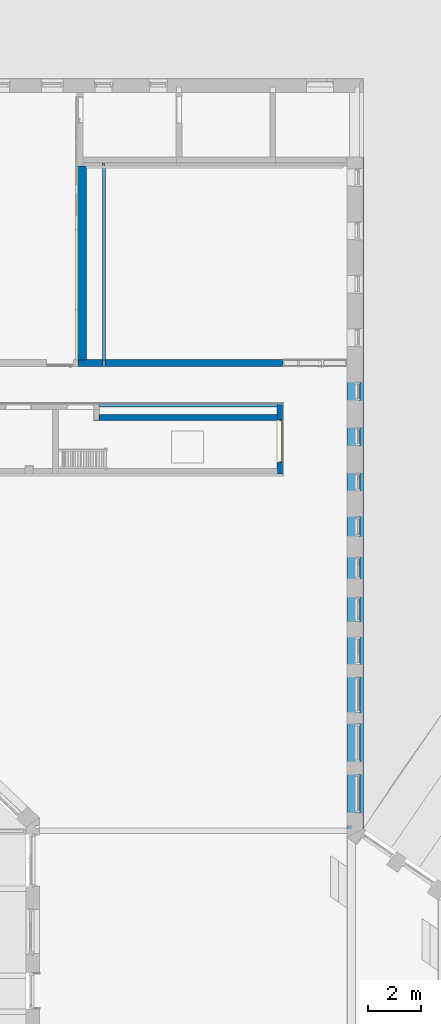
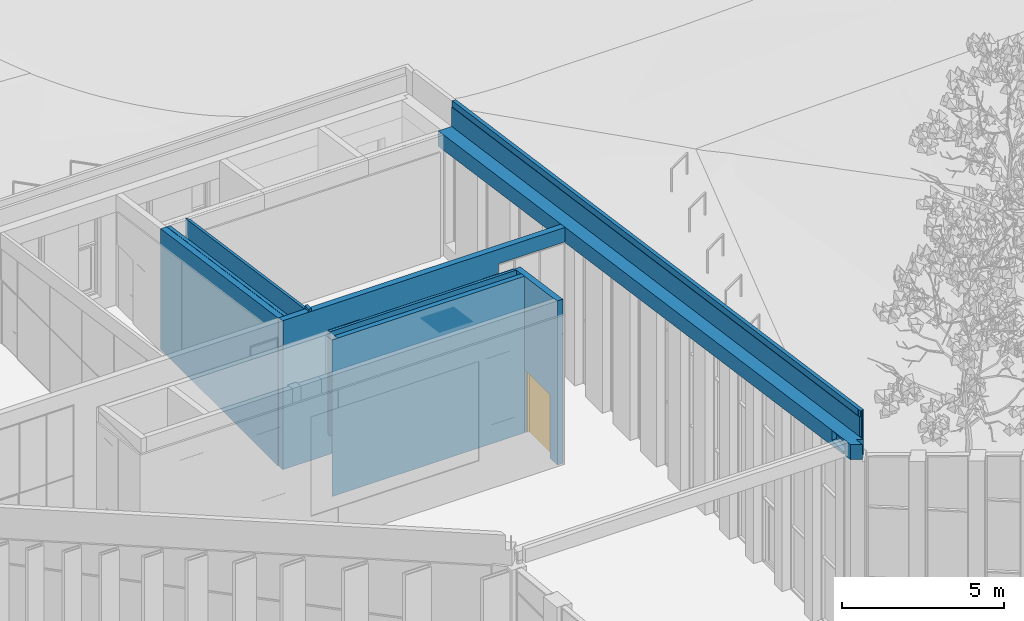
# One storey, part 127 of 246: 7 walls, 1 door, 3 openings.
"""IFC2X3 building model written with IfcOpenShell, lengths in millimetres."""

from ifc_helpers import new_model, entity, si_unit, converted_unit, derived_unit, money_unit, direction, frame, origin_with_axes, place, context, subcontext, project, spatial, faceted_brep, material, material_list, type_object, element, fill, save


model = new_model("IFC2X3")

# Units and contexts
model_context = context("Model", 3, precision=0.01, world=origin_with_axes(), true_north=direction((0.0, 1.0)))
body_context = subcontext(model_context, "Body", "Model", "MODEL_VIEW")
ifc_project = project(units=[si_unit("LENGTHUNIT", "METRE", prefix="MILLI"), si_unit("AREAUNIT", "SQUARE_METRE"), si_unit("VOLUMEUNIT", "CUBIC_METRE"), converted_unit("PLANEANGLEUNIT", "DEGREE", entity("IfcPlaneAngleMeasure", 0.0174532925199), si_unit("PLANEANGLEUNIT", "RADIAN"), dimensions=[0, 0, 0, 0, 0, 0, 0]), si_unit("SOLIDANGLEUNIT", "STERADIAN"), money_unit("EUR"), converted_unit("TIMEUNIT", "Year", entity("IfcTimeMeasure", 31556926.0), si_unit("TIMEUNIT", "SECOND"), dimensions=[0, 0, 1, 0, 0, 0, 0]), si_unit("MASSUNIT", "GRAM", prefix="KILO"), si_unit("THERMODYNAMICTEMPERATUREUNIT", "DEGREE_CELSIUS"), si_unit("LUMINOUSINTENSITYUNIT", "LUMEN"), si_unit("ENERGYUNIT", "JOULE", prefix="MEGA"), derived_unit("THERMALCONDUCTANCEUNIT", [(si_unit("POWERUNIT", "WATT"), 1), (si_unit("LENGTHUNIT", "METRE"), -1), (si_unit("THERMODYNAMICTEMPERATUREUNIT", "KELVIN"), -1)]), derived_unit("SPECIFICHEATCAPACITYUNIT", [(si_unit("ENERGYUNIT", "JOULE"), 1), (si_unit("MASSUNIT", "GRAM", prefix="KILO"), -1), (si_unit("THERMODYNAMICTEMPERATUREUNIT", "KELVIN"), -1)]), derived_unit("MASSDENSITYUNIT", [(si_unit("MASSUNIT", "GRAM", prefix="KILO"), 1), (si_unit("VOLUMEUNIT", "CUBIC_METRE"), -1)])], contexts=[model_context])

# Site, building, storey
site_placement = place(None, origin_with_axes())
site = spatial("IfcSite", under=ifc_project, at=site_placement, Name="L.Koidula tn 11b", CompositionType="ELEMENT")
building_placement = place(site_placement, origin_with_axes())
building = spatial("IfcBuilding", under=site, at=building_placement, Name="Rakvere Riigigümnaasium", CompositionType="ELEMENT")
storey_placement = place(building_placement, origin_with_axes())
storey = spatial("IfcBuildingStorey", under=building, at=storey_placement, Name="1.korrus 0,00", CompositionType="ELEMENT", Elevation=0.0)

# Wall
ifc_material_1 = material(Name="Kipsplaat")
ifc_material_2 = material(Name="mineraalvill+karkass")
ifc_material_3 = material(Name="Betoon element / plaat")
ifc_material_4 = material(Name="Krohv")
ifc_material_list_1 = material_list([ifc_material_1, ifc_material_2, ifc_material_3, ifc_material_4])
wall_type_1 = type_object("IfcWallType", Name="SS-02-1 345", PredefinedType="NOTDEFINED")
wall_1_placement = place(storey_placement, frame((36919.9971542, 68844.1313013, 0.0), z_axis=(0.0, 0.0, 1.0), x_axis=(0.0, -1.0, 0.0)))
element("IfcWall", 1, at=wall_1_placement, inside=storey, type_object=wall_type_1, material=ifc_material_list_1, Name="Sisesein", context=body_context, shape_type="Brep", body=[
    faceted_brep([(0.0, 310.0, 4548.96898762), (0.0, 335.0, 4548.96898748), (0.0, 335.0, 0.0), (0.0, 310.0, 0.0), (7253.59550954, 335.0, 5581.30850311), (7253.59550954, 310.0, 5581.30850325), (7253.59550954, 335.0, 0.0), (7253.59550954, 310.0, 0.0)], [[[0, 1, 2, 3]], [[4, 1, 0, 5]], [[1, 4, 6, 2]], [[2, 6, 7, 3]], [[5, 0, 3, 7]], [[4, 5, 7, 6]]]),
    faceted_brep([(0.0, 210.0, 4548.96898818), (0.0, 310.0, 4548.96898762), (0.0, 310.0, 0.0), (0.0, 210.0, 0.0), (7253.59550954, 310.0, 5581.30850325), (7253.59550954, 210.0, 5581.30850381), (7253.59550954, 310.0, 0.0), (7253.59550954, 210.0, 0.0)], [[[0, 1, 2, 3]], [[4, 1, 0, 5]], [[1, 4, 6, 2]], [[2, 6, 7, 3]], [[5, 0, 3, 7]], [[4, 5, 7, 6]]]),
    faceted_brep([(0.0, 0.0, 4548.96898937), (0.0, 200.0, 4548.96898824), (0.0, 200.0, 0.0), (0.0, 0.0, 0.0), (7253.59550954, 200.0, 5581.30850387), (7253.59550954, 0.0, 5581.308505), (7253.59550954, 200.0, 0.0), (7253.59550954, 0.0, 0.0)], [[[0, 1, 2, 3]], [[4, 1, 0, 5]], [[1, 4, 6, 2]], [[2, 6, 7, 3]], [[5, 0, 3, 7]], [[4, 5, 7, 6]]]),
    faceted_brep([(0.0, -10.0000087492, 4548.96898943), (0.0, 0.0, 4548.96898937), (0.0, 0.0, 0.0), (0.0, -10.0, 0.0), (7253.59550954, 0.0, 5581.308505), (7253.59550954, -10.0000087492, 5581.30850506), (7253.59550954, 0.0, 0.0), (7253.59550954, -10.0, 0.0)], [[[0, 1, 2, 3]], [[4, 1, 0, 5]], [[1, 4, 6, 2]], [[3, 2, 6, 7]], [[5, 0, 3, 7]], [[4, 5, 7, 6]]]),
])

# Wall, opening, door
ifc_material_5 = material(Name="siseviimistlus-seinad")
ifc_material_list_2 = material_list([ifc_material_3, ifc_material_5])
wall_type_2 = type_object("IfcWallType", Name="SS-01-1 210", PredefinedType="NOTDEFINED")
wall_2_placement = place(storey_placement, frame((44599.9999911, 59940.5286845, 0.0), z_axis=(0.0, 0.0, 1.0), x_axis=(0.0, -1.0, 0.0)))
wall_2 = element("IfcWall", 2, at=wall_2_placement, inside=storey, type_object=wall_type_2, material=ifc_material_list_2, Name="Sisesein", context=body_context, shape_type="Brep", body=[
    faceted_brep([(0.0, -200.0, 5816.13924923), (0.0, 0.0, 5816.1392481), (0.0, 0.0, 0.0), (0.0, -200.0, 0.0), (2620.07403484, 0.0, 6189.03100316), (2620.07403484, -200.0, 6189.03100429), (2620.07403484, 0.0, 0.0), (2200.07400769, 0.0, 0.0), (2200.07400769, 0.0, 2400.0), (600.074007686, 0.0, 2400.0), (600.074007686, 0.0, 0.0), (600.074007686, -200.0, 0.0), (600.074007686, -200.0, 2400.0), (2200.07400769, -200.0, 2400.0), (2200.07400769, -200.0, 0.0), (2620.07403484, -200.0, 0.0)], [[[0, 1, 2, 3]], [[4, 1, 0, 5]], [[1, 4, 6, 7, 8, 9, 10, 2]], [[2, 10, 11, 3]], [[5, 0, 3, 11, 12, 13, 14, 15]], [[4, 5, 15, 6]], [[15, 14, 7, 6]], [[13, 8, 7, 14]], [[12, 9, 8, 13]], [[11, 10, 9, 12]]]),
    faceted_brep([(600.074029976, -210.0, 5901.54243073), (600.074029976, -200.0, 5901.54243067), (600.074007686, -200.0, 2400.0), (600.074007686, -210.0, 2400.0), (2420.07403484, -200.0, 6160.56678915), (2420.07403484, -210.0, 6160.5667892), (2420.07403484, -200.0, 0.0), (2200.07400769, -200.0, 0.0), (2200.07400769, -200.0, 2400.0), (2200.07400769, -210.0, 2400.0), (2200.07400769, -210.0, 0.0), (2420.07403484, -210.0, 0.0)], [[[0, 1, 2, 3]], [[4, 1, 0, 5]], [[1, 4, 6, 7, 8, 2]], [[9, 3, 2, 8]], [[5, 0, 3, 9, 10, 11]], [[4, 5, 11, 6]], [[11, 10, 7, 6]], [[9, 8, 7, 10]]]),
    faceted_brep([(0.0, -210.0, 5816.13924928), (0.0, -200.0, 5816.13924923), (0.0, -200.0, 0.0), (0.0, -210.0, 0.0), (15.5740348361, -200.0, 5818.35576262), (15.5740348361, -210.0, 5818.35576267), (15.5740348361, -200.0, 0.0), (15.5740348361, -210.0, 0.0)], [[[0, 1, 2, 3]], [[4, 1, 0, 5]], [[1, 4, 6, 2]], [[6, 7, 3, 2]], [[5, 0, 3, 7]], [[4, 5, 7, 6]]]),
    faceted_brep([(81.5740348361, -210.0, 5827.74895367), (81.5740348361, -200.0, 5827.74895361), (81.5740348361, -200.0, 0.0), (81.5740348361, -210.0, 0.0), (400.074034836, -200.0, 5873.07821623), (400.074034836, -210.0, 5873.07821628), (400.074034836, -200.0, 0.0), (400.074034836, -210.0, 0.0)], [[[0, 1, 2, 3]], [[4, 1, 0, 5]], [[1, 4, 6, 2]], [[6, 7, 3, 2]], [[5, 0, 3, 7]], [[4, 5, 7, 6]]]),
])
opening_1_placement = place(wall_2_placement, frame((1400.07400769, 0.0, 0.0), z_axis=(0.0, 0.0, 1.0), x_axis=(1.0, 0.0, 0.0)))
opening_1 = element("IfcOpeningElement", 3, at=opening_1_placement, cuts=wall_2, Name="SU-006", context=body_context, shape_type="Brep", body=[
    faceted_brep([(-800.0, 420.0, 2400.0), (-800.0, 420.0, 0.0), (-800.0, -210.0, 0.0), (-800.0, -210.0, 2400.0), (800.0, 420.0, 2400.0), (800.0, 420.0, 0.0), (800.0, -210.0, 0.0), (800.0, -210.0, 2400.0)], [[[0, 1, 2, 3]], [[0, 4, 5, 1]], [[1, 5, 6, 2]], [[3, 2, 6, 7]], [[4, 0, 3, 7]], [[5, 4, 7, 6]]]),
])
door_style = type_object("IfcDoorStyle", Name="Double Door 23", ConstructionType="NOTDEFINED", OperationType="DOUBLE_DOOR_SINGLE_SWING", ParameterTakesPrecedence=False, Sizeable=False)
door_placement = place(opening_1_placement, frame((-800.0, 0.0, 0.0), z_axis=(0.0, 0.0, 1.0), x_axis=(1.0, 0.0, 0.0)))
door = element("IfcDoor", 4, at=door_placement, inside=storey, type_object=door_style, Name="SU-006", ObjectType="DOOR", OverallHeight=2400.0, OverallWidth=1600.0, context=body_context, shape_type="Brep", body=[
    faceted_brep([(1560.0, -40.0, 0.0), (1560.0, -115.0, 0.0), (1560.0, -115.0, 2360.0), (1560.0, -40.0, 2360.0), (1572.0, -40.0, 0.0), (1572.0, 0.0, 0.0), (1600.0, 0.0, 0.0), (1600.0, -115.0, 0.0), (1600.0, -115.0, 2360.0), (1572.0, -40.0, 2360.0), (1600.0, 0.0, 2360.0), (1572.0, 0.0, 2360.0)], [[[0, 1, 2, 3]], [[4, 5, 6, 7, 1, 0]], [[1, 7, 8, 2]], [[9, 3, 2, 8, 10, 11]], [[9, 4, 0, 3]], [[11, 5, 4, 9]], [[11, 10, 6, 5]], [[6, 10, 8, 7]]]),
    faceted_brep([(28.0, -40.0, 2360.0), (28.0, 0.0, 2360.0), (0.0, 0.0, 2360.0), (0.0, -115.0, 2360.0), (40.0, -115.0, 2360.0), (40.0, -40.0, 2360.0), (28.0, -40.0, 0.0), (28.0, 0.0, 0.0), (0.0, 0.0, 0.0), (0.0, -115.0, 0.0), (40.0, -115.0, 0.0), (40.0, -40.0, 0.0)], [[[0, 1, 2, 3, 4, 5]], [[0, 6, 7, 1]], [[7, 8, 2, 1]], [[2, 8, 9, 3]], [[3, 9, 10, 4]], [[5, 4, 10, 11]], [[5, 11, 6, 0]], [[6, 11, 10, 9, 8, 7]]]),
    faceted_brep([(1572.0, 0.0, 2372.0), (28.0, 0.0, 2372.0), (28.0, 0.0, 2360.0), (0.0, 0.0, 2360.0), (0.0, 0.0, 2400.0), (1600.0, 0.0, 2400.0), (1600.0, 0.0, 2360.0), (1572.0, 0.0, 2360.0), (1572.0, -40.0, 2372.0), (28.0, -40.0, 2372.0), (28.0, -40.0, 2360.0), (40.0, -40.0, 2360.0), (40.0, -115.0, 2360.0), (0.0, -115.0, 2360.0), (0.0, -115.0, 2400.0), (1600.0, -115.0, 2400.0), (1600.0, -115.0, 2360.0), (1572.0, -40.0, 2360.0), (1560.0, -115.0, 2360.0), (1560.0, -40.0, 2360.0)], [[[0, 1, 2, 3, 4, 5, 6, 7]], [[0, 8, 9, 1]], [[1, 9, 10, 2]], [[10, 11, 12, 13, 3, 2]], [[4, 3, 13, 14]], [[5, 4, 14, 15]], [[6, 5, 15, 16]], [[17, 7, 6, 16, 18, 19]], [[7, 17, 8, 0]], [[10, 9, 8, 17, 19, 11]], [[19, 18, 12, 11]], [[12, 18, 16, 15, 14, 13]]]),
    faceted_brep([(28.0, 0.0, 0.0), (800.0, 0.0, 0.0), (800.0, -40.0, 0.0), (28.0, -40.0, 0.0), (28.0, 0.0, 2372.0), (800.0, 0.0, 2372.0), (800.0, -40.0, 2372.0), (28.0, -40.0, 2372.0)], [[[0, 1, 2, 3]], [[0, 4, 5, 1]], [[1, 5, 6, 2]], [[3, 2, 6, 7]], [[4, 0, 3, 7]], [[5, 4, 7, 6]]]),
    faceted_brep([(1572.0, 0.0, 0.0), (1572.0, -40.0, 0.0), (800.0, -40.0, 0.0), (800.0, 0.0, 0.0), (1572.0, 0.0, 2372.0), (1572.0, -40.0, 2372.0), (800.0, -40.0, 2372.0), (800.0, 0.0, 2372.0)], [[[0, 1, 2, 3]], [[4, 5, 1, 0]], [[1, 5, 6, 2]], [[3, 2, 6, 7]], [[0, 3, 7, 4]], [[7, 6, 5, 4]]]),
])
fill(opening_1, door)

# Wall
wall_3_placement = place(storey_placement, frame((37529.9999911, 59540.4546496, 0.0), z_axis=(0.0, 0.0, 1.0), x_axis=(1.0, 0.0, 0.0)))
element("IfcWall", 5, at=wall_3_placement, inside=storey, type_object=wall_type_2, material=ifc_material_list_2, Name="Sisesein", context=body_context, shape_type="Brep", body=[
    faceted_brep([(200.0, 0.0, 5873.07825391), (6870.0, 0.0, 5873.07821623), (6870.0, 0.0, 0.0), (200.0, 0.0, 0.0), (6870.0, -200.0, 5901.54243137), (200.0, -200.0, 5901.54246905), (6870.0, -200.0, 0.0), (200.0, -200.0, 0.0)], [[[0, 1, 2, 3]], [[4, 1, 0, 5]], [[1, 4, 6, 2]], [[3, 2, 6, 7]], [[5, 0, 3, 7]], [[4, 5, 7, 6]]]),
    faceted_brep([(0.0, -200.0, 5901.54247018), (6860.0, -200.0, 5901.54243142), (6860.0, -200.0, 0.0), (0.0, -200.0, 0.0), (6860.0, -210.0, 5902.96564218), (0.0, -210.0, 5902.96568094), (6860.0, -210.0, 0.0), (0.0, -210.0, 0.0)], [[[0, 1, 2, 3]], [[4, 1, 0, 5]], [[1, 4, 6, 2]], [[3, 2, 6, 7]], [[5, 0, 3, 7]], [[4, 5, 7, 6]]]),
])

# Wall, opening
ifc_material_list_3 = material_list([ifc_material_1, ifc_material_1, ifc_material_2, ifc_material_1, ifc_material_1])
wall_type_3 = type_object("IfcWallType", Name="SS-08 118", PredefinedType="NOTDEFINED")
wall_4_placement = place(storey_placement, frame((37739.9999911, 59924.9546496, 0.0), z_axis=(0.0, 0.0, 1.0), x_axis=(1.0, 0.0, 0.0)))
wall_4 = element("IfcWall", 6, at=wall_4_placement, inside=storey, type_object=wall_type_3, material=ifc_material_list_3, Name="Sisesein", context=body_context, shape_type="Brep", body=[
    faceted_brep([(5520.31178235, 25.5, 5814.72658163), (5520.31178235, 25.5, 5829.25372124), (6650.0, 25.5, 5829.25372124), (6650.0, 25.5, 1900.0), (0.0, 25.5, 1900.0), (0.0, 25.5, 5829.25372124), (1130.43030722, 25.5, 5829.25372124), (1130.43030722, 25.5, 5814.72660643), (5520.31178235, 23.4735286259, 5815.01499121), (6650.0, 23.4735277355, 5815.01498496), (6650.0, 12.5, 5816.57674923), (6650.0, 12.5, 1900.0), (0.0, 12.5, 1900.0), (0.0, 23.4735329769, 5815.01502178), (0.0, 12.5, 5816.5767868), (1130.43030722, 23.4735320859, 5815.01501552)], [[[0, 1, 2, 3, 4, 5, 6, 7]], [[1, 0, 8]], [[9, 2, 1, 8]], [[9, 10, 11, 3, 2]], [[12, 4, 3, 11]], [[13, 5, 4, 12, 14]], [[6, 5, 13, 15]], [[7, 6, 15]], [[10, 9, 8, 0, 7, 15, 13, 14]], [[10, 14, 12, 11]]]),
    faceted_brep([(0.0, 12.5, 5816.5767868), (6650.0, 12.5, 5816.57674923), (6650.0, 12.5, 1900.0), (0.0, 12.5, 1900.0), (6650.0, 0.0, 5818.35576267), (0.0, 0.0, 5818.35580025), (6650.0, 0.0, 1900.0), (0.0, 0.0, 1900.0)], [[[0, 1, 2, 3]], [[4, 1, 0, 5]], [[1, 4, 6, 2]], [[7, 3, 2, 6]], [[5, 0, 3, 7]], [[4, 5, 7, 6]]]),
    faceted_brep([(0.0, 0.0, 5818.35580025), (6660.0, 0.0, 5818.35576262), (6660.0, 0.0, 1900.0), (0.0, 0.0, 1900.0), (6660.0, -66.0, 5827.74895361), (0.0, -66.0, 5827.74899124), (6660.0, -66.0, 1900.0), (0.0, -66.0, 1900.0)], [[[0, 1, 2, 3]], [[4, 1, 0, 5]], [[1, 4, 6, 2]], [[7, 3, 2, 6]], [[5, 0, 3, 7]], [[4, 5, 7, 6]]]),
    faceted_brep([(0.0, -66.0, 5827.74899124), (6650.0, -66.0, 5827.74895367), (6650.0, -66.0, 1900.0), (0.0, -66.0, 1900.0), (6650.0, -79.0, 5829.59912765), (0.0, -79.0, 5829.59916523), (6650.0, -79.0, 1900.0), (0.0, -79.0, 1900.0)], [[[0, 1, 2, 3]], [[4, 1, 0, 5]], [[1, 4, 6, 2]], [[7, 3, 2, 6]], [[5, 0, 3, 7]], [[4, 5, 7, 6]]]),
    faceted_brep([(0.0, -79.0, 5829.59916523), (6650.0, -79.0, 5829.59912765), (6650.0, -79.0, 1900.0), (0.0, -79.0, 1900.0), (6650.0, -92.0, 5831.44930164), (0.0, -92.0, 5831.44933921), (6650.0, -92.0, 1900.0), (0.0, -92.0, 1900.0)], [[[0, 1, 2, 3]], [[4, 1, 0, 5]], [[1, 4, 6, 2]], [[7, 3, 2, 6]], [[5, 0, 3, 7]], [[4, 5, 7, 6]]]),
])
opening_2_placement = place(wall_4_placement, frame((3330.24881464, 0.0, 0.0), z_axis=(0.0, 0.0, 1.0), x_axis=(1.0, 0.0, 0.0)))
element("IfcOpeningElement", 7, at=opening_2_placement, cuts=wall_4, Name="ava", context=body_context, shape_type="Brep", body=[
    faceted_brep([(-3330.24881464, -117.5, 0.0), (-3330.24881464, -117.5, 1900.0), (-3330.24881464, 235.0, 1900.0), (-3330.24881464, 235.0, 0.0), (3330.24881464, -117.5, 0.0), (3330.24881464, -117.5, 1900.0), (3330.24881464, 235.0, 1900.0), (3330.24881464, 235.0, 0.0)], [[[0, 1, 2, 3]], [[0, 4, 5, 1]], [[1, 5, 6, 2]], [[3, 2, 6, 7]], [[4, 0, 3, 7]], [[5, 4, 7, 6]]]),
])

# Wall
ifc_material_6 = material(Name="Karkass")
ifc_material_7 = material(Name="Kipsplaat-erikõva")
ifc_material_8 = material(Name="Polükarbamiid")
ifc_material_list_4 = material_list([ifc_material_6, ifc_material_7, ifc_material_7, ifc_material_8])
wall_type_4 = type_object("IfcWallType", Name="SS-09-1 97", PredefinedType="NOTDEFINED")
wall_5_placement = place(storey_placement, frame((37959.9999911, 61340.4546496, 2400.0), z_axis=(0.0, 0.0, 1.0), x_axis=(0.0, 1.0, 0.0)))
element("IfcWall", 8, at=wall_5_placement, inside=storey, type_object=wall_type_4, material=ifc_material_list_4, Name="Sisesein", context=body_context, shape_type="Brep", body=[
    faceted_brep([(249.987891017, 30.5000005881, 3216.90033883), (249.987891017, 30.5000005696, 3325.0), (0.0, 30.5000005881, 3325.0), (0.0, 30.500000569, 3216.90033883), (249.987891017, 96.4999993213, 3325.0), (249.987891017, 96.4999992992, 3216.90033883), (0.0, 96.4999992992, 3325.0), (0.0, 96.4999992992, 3216.90033883)], [[[0, 1, 2, 3]], [[4, 1, 0, 5]], [[1, 4, 6, 2]], [[6, 7, 3, 2]], [[5, 0, 3, 7]], [[4, 5, 7, 6]]]),
    faceted_brep([(7629.97665169, 96.4999999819, 2130.99383218), (7629.97665169, 30.5000000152, 2130.9938318), (7629.97665169, 30.5, 0.0), (7629.97665169, 96.5, 0.0), (250.0, 30.5000005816, 3181.32004754), (250.0, 96.499999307, 3181.32004791), (250.0, 30.5, 0.0), (250.0, 96.5, 0.0)], [[[0, 1, 2, 3]], [[4, 1, 0, 5]], [[1, 4, 6, 2]], [[2, 6, 7, 3]], [[5, 0, 3, 7]], [[4, 5, 7, 6]]]),
    faceted_brep([(249.987891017, 18.0, 3216.90033883), (249.987891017, 18.0, 3325.0), (0.0, 18.0, 3325.0), (0.0, 18.0, 3216.90033883), (249.987891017, 30.5000005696, 3325.0), (249.987891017, 30.5000005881, 3216.90033883), (0.0, 30.5000005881, 3325.0), (0.0, 30.500000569, 3216.90033883)], [[[0, 1, 2, 3]], [[4, 1, 0, 5]], [[1, 4, 6, 2]], [[6, 7, 3, 2]], [[5, 0, 3, 7]], [[4, 5, 7, 6]]]),
    faceted_brep([(7529.97665169, 30.50000002, 2145.22593938), (7529.97665169, 18.0, 2145.2259393), (7529.97665169, 18.0, 0.0), (7529.97665169, 30.5, 0.0), (250.0, 18.0, 3181.32004746), (250.0, 30.5000005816, 3181.32004754), (250.0, 18.0, 0.0), (250.0, 30.5, 0.0)], [[[0, 1, 2, 3]], [[4, 1, 0, 5]], [[1, 4, 6, 2]], [[2, 6, 7, 3]], [[5, 0, 3, 7]], [[4, 5, 7, 6]]]),
    faceted_brep([(249.987891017, 5.00000075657, 3216.90033883), (249.987891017, 5.00000073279, 3325.0), (0.0, 5.00000075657, 3325.0), (0.0, 5.00000073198, 3216.90033883), (249.987891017, 18.0, 3325.0), (249.987891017, 18.0, 3216.90033883), (0.0, 18.0, 3325.0), (0.0, 18.0, 3216.90033883)], [[[0, 1, 2, 3]], [[4, 1, 0, 5]], [[1, 4, 6, 2]], [[6, 7, 3, 2]], [[5, 0, 3, 7]], [[4, 5, 7, 6]]]),
    faceted_brep([(7504.97665169, 18.0, 2148.7839662), (7504.97665169, 5.00000002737, 2148.78396612), (7504.97665169, 5.0, 0.0), (7504.97665169, 18.0, 0.0), (250.0, 5.0000007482, 3181.32004739), (250.0, 18.0, 3181.32004746), (250.0, 5.0, 0.0), (250.0, 18.0, 0.0)], [[[0, 1, 2, 3]], [[4, 1, 0, 5]], [[1, 4, 6, 2]], [[2, 6, 7, 3]], [[5, 0, 3, 7]], [[4, 5, 7, 6]]]),
    faceted_brep([(249.987891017, 0.0, 3216.90033883), (249.987891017, 0.0, 3325.0), (0.0, 0.0, 3325.0), (0.0, 0.0, 3216.90033883), (249.987891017, 5.00000073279, 3325.0), (249.987891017, 5.00000075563, 3216.90033883), (0.0, 5.00000075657, 3325.0), (0.0, 5.00000073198, 3216.90033883)], [[[0, 1, 2, 3]], [[4, 1, 0, 5]], [[1, 4, 6, 2]], [[6, 7, 3, 2]], [[5, 0, 3, 7]], [[4, 5, 7, 6]]]),
    faceted_brep([(7504.97665169, 5.00000002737, 2148.78396612), (7504.97665169, 0.0, 2148.7839661), (7504.97665169, 0.0, 0.0), (7504.97665169, 5.0, 0.0), (260.0, 0.0, 3179.89683661), (260.0, 5.00000074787, 3179.89683663), (260.0, 0.0, 0.0), (260.0, 5.0, 0.0)], [[[0, 1, 2, 3]], [[4, 1, 0, 5]], [[1, 4, 6, 2]], [[2, 6, 7, 3]], [[5, 0, 3, 7]], [[4, 5, 7, 6]]]),
])

# Wall, opening
ifc_material_9 = material(Name="Betoon")
ifc_material_list_5 = material_list([ifc_material_4, ifc_material_9])
wall_type_5 = type_object("IfcWallType", Name="SS-03-1 260", PredefinedType="NOTDEFINED")
wall_6_placement = place(storey_placement, frame((36935.1425592, 61340.4546496, 0.0), z_axis=(0.0, 0.0, 1.0), x_axis=(1.0, 0.0, 0.0)))
wall_6 = element("IfcWall", 9, at=wall_6_placement, inside=storey, type_object=wall_type_5, material=ifc_material_list_5, Name="Sisesein", context=body_context, shape_type="Brep", body=[
    faceted_brep([(1019.85743121, 260.0, 5579.89683663), (10064.8574343, 260.0, 5579.89678553), (10064.8574343, 260.0, 5070.0), (7684.85743191, 260.0, 5070.0), (7684.85743191, 260.0, 0.0), (0.0, 260.0, 0.0), (0.0, 260.0, 5579.8968424), (928.35743258, 260.0, 5579.89683715), (928.35743191, 260.0, 2400.0), (1019.85743191, 260.0, 2400.0), (10064.8574343, 250.0, 5581.31999629), (1019.85743121, 250.0, 5581.32004739), (10064.8574343, 250.0, 5070.0), (7684.85743191, 250.0, 5070.0), (7684.85743191, 250.0, 0.0), (0.0, 250.0, 0.0), (0.0, 250.0, 5581.32005315), (928.357432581, 250.0, 5581.32004791), (928.35743191, 250.0, 2400.0), (1019.85743191, 250.0, 2400.0)], [[[0, 1, 2, 3, 4, 5, 6, 7, 8, 9]], [[10, 1, 0, 11]], [[1, 10, 12, 2]], [[13, 3, 2, 12]], [[14, 4, 3, 13]], [[5, 4, 14, 15]], [[16, 6, 5, 15]], [[17, 7, 6, 16]], [[7, 17, 18, 8]], [[18, 19, 9, 8]], [[11, 0, 9, 19]], [[10, 11, 19, 18, 17, 16, 15, 14, 13, 12]]]),
    faceted_brep([(0.0, 249.987889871, 5581.32177674), (0.0, -2.32802221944e-06, 5616.90032247), (10064.8574343, -1.02609050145e-05, 5616.90026673), (10064.8574343, 249.987889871, 5581.32171987), (10064.8574343, 250.0, 5581.31999629), (0.0, 250.0, 5581.32005315), (0.0, 250.0, 0.0), (0.0, 0.0, 0.0), (7684.85743191, 0.0, 0.0), (7684.85743191, 0.0, 5070.0), (10064.8574343, 0.0, 5070.0), (10064.8574343, 250.0, 5070.0), (7684.85743191, 250.0, 5070.0), (7684.85743191, 250.0, 0.0)], [[[0, 1, 2, 3, 4, 5]], [[1, 0, 5, 6, 7]], [[2, 1, 7, 8, 9, 10]], [[3, 2, 10, 11, 4]], [[6, 5, 4, 11, 12, 13]], [[7, 6, 13, 8]], [[9, 8, 13, 12]], [[10, 9, 12, 11]]]),
])
opening_3_placement = place(wall_6_placement, frame((8874.8574331, 0.0, 0.0), z_axis=(0.0, 0.0, 1.0), x_axis=(1.0, 0.0, 0.0)))
element("IfcOpeningElement", 10, at=opening_3_placement, cuts=wall_6, Name="ava", context=body_context, shape_type="Brep", body=[
    faceted_brep([(-1190.00000119, -520.0, 0.0), (-1190.00000119, -520.0, 5070.0), (-1190.00000119, 260.0, 5070.0), (-1190.00000119, 260.0, 0.0), (1190.00000119, -520.0, 0.0), (1190.00000119, -520.0, 5070.0), (1190.00000119, 260.0, 5070.0), (1190.00000119, 260.0, 0.0)], [[[0, 1, 2, 3]], [[0, 4, 5, 1]], [[1, 5, 6, 2]], [[3, 2, 6, 7]], [[4, 0, 3, 7]], [[5, 4, 7, 6]]]),
])

# Wall
ifc_material_10 = material(Name="Betoon-element")
ifc_material_11 = material(Name="FF-PIR soojustus")
ifc_material_12 = material(Name="Tuuletõke (RKL Facade)")
ifc_material_13 = material(Name="Roovid-puit")
ifc_material_list_6 = material_list([ifc_material_10, ifc_material_11, ifc_material_12, ifc_material_13, ifc_material_13, ifc_material_13])
wall_type_6 = type_object("IfcWallType", Name="VS-10 626", PredefinedType="NOTDEFINED")
wall_7_placement = place(storey_placement, frame((46999.9999935, 43715.8243108, 3500.0), z_axis=(0.0, 0.0, 1.0), x_axis=(0.0, 1.0, 0.0)))
element("IfcWall", 11, at=wall_7_placement, inside=storey, type_object=wall_type_6, material=ifc_material_list_6, Name="Välissein", context=body_context, shape_type="Brep", body=[
    faceted_brep([(384.619100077, -300.0, 4574.19516668), (384.618992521, -300.0, 4570.5172235), (384.618992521, 5.07179720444e-06, 4570.5172252), (384.619100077, 5.06496178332e-06, 4574.19972055), (25465.8523206, -300.0, 418.344219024), (25465.8523206, -300.0, 1000.92911624), (-205.763138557, -300.0, 4636.24683974), (-205.763138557, -300.0, 4073.30131802), (25465.8523206, 0.0, 1000.92911794), (330.685125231, 5.46143041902e-06, 4150.0), (330.685125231, 5.07179720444e-06, 3996.92531461), (-1.55528496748e-05, 5.38287991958e-06, 4044.0061072), (-1.62128657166e-05, 4.42058478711e-06, 4614.62481821), (25465.8523206, 0.0, 418.344219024), (440.685125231, 5.20633847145e-06, 3981.26423237), (440.685125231, 5.46143041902e-06, 4080.00002074), (1148.62392024, 5.46143752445e-06, 4080.00002074), (1148.62392024, 5.46143752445e-06, 4460.00002074), (348.623920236, 5.46143041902e-06, 4460.00002074), (348.623920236, 5.46143041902e-06, 4150.0), (330.685125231, -170.0, 3996.92531461), (440.685125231, -170.0, 3981.26423237), (330.685125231, -170.0, 4150.0), (440.685125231, -170.0, 4080.00002074), (1148.62392024, -170.0, 4080.00002074), (1148.62392024, -170.0, 4460.00002074), (348.623920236, -170.0, 4460.00002074), (348.623920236, -170.0, 4150.0)], [[[0, 1, 2, 3]], [[4, 5, 1, 0, 6, 7]], [[1, 5, 8, 2]], [[9, 10, 11, 12, 3, 2, 8, 13, 14, 15, 16, 17, 18, 19]], [[0, 3, 12, 6]], [[13, 8, 5, 4]], [[12, 11, 7, 6]], [[4, 7, 11, 10, 20, 21, 14, 13]], [[10, 9, 22, 20]], [[21, 23, 15, 14]], [[15, 23, 24, 16]], [[17, 16, 24, 25]], [[18, 17, 25, 26]], [[27, 19, 18, 26]], [[19, 27, 22, 9]], [[20, 22, 27, 26, 25, 24, 23, 21]]]),
    faceted_brep([(384.618992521, -300.0, 4570.5172235), (384.618992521, -300.697722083, 4570.5172235), (285.852984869, -444.697530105, 4584.57370714), (285.857304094, -455.291237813, 4584.57309236), (268.910096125, -480.000050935, 4586.98503709), (25465.8523206, -479.999991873, 1000.92911522), (25465.8523206, -300.0, 1000.92911624), (384.619100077, -300.0, 4574.19516668), (384.619100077, -300.697722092, 4574.19515609), (158.020418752, -300.0, 4598.01164755), (34.5625471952, -480.0, 4610.98486027), (268.910094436, -480.000053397, 4586.35394079), (34.5625455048, -480.0, 4039.08531528), (25465.8523206, -480.0, 418.344219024), (25465.8523206, -300.0, 418.344219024), (158.02041704, -300.0, 4021.5081891)], [[[0, 1, 2, 3, 4, 5, 6]], [[1, 0, 7, 8]], [[2, 1, 8]], [[7, 9, 10, 11, 3, 2, 8]], [[4, 3, 11]], [[5, 4, 11, 10, 12, 13]], [[5, 13, 14, 6]], [[14, 15, 9, 7, 0, 6]], [[15, 12, 10, 9]], [[15, 14, 13, 12]]]),
    faceted_brep([(25465.8523206, -497.000062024, 1963.70422713), (25465.8523206, -530.0, 1963.70422713), (25465.8523206, -530.0, 418.344219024), (25465.8523206, -480.0, 418.344219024), (25465.8523206, -480.0, 1734.03166324), (25465.8523206, -497.000062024, 1734.03166324), (279.358094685, -530.000000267, 5553.52880942), (384.619095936, -497.000062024, 5538.52598583), (384.619096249, -480.0, 5538.52598578), (384.258324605, -480.0, 5538.57740647), (384.258324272, -497.998384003, 5538.57740652), (262.544717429, -497.998384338, 5555.92521578), (279.358095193, -530.0, 5550.59485759), (239.003078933, -530.0, 5554.81747543), (239.003078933, -530.0, 5319.48087713), (234.616277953, -530.0, 5319.94194849), (234.616278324, -530.0, 4589.95760709), (218.538817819, -530.0, 4591.64741626), (218.538814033, -530.0, 4012.89197463), (252.83266722, -480.0, 4008.00943958), (384.619096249, -480.0, 5303.61975568), (252.832671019, -480.0, 4588.04374606), (268.91013106, -480.0, 4586.35393694), (268.910130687, -480.0, 5316.33751932), (384.258324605, -480.0, 5304.21393561), (384.619095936, -497.000062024, 5303.61975573), (384.258324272, -497.998384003, 5304.21393565), (260.952126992, -497.998384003, 5317.17393921), (260.952126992, -497.998384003, 5552.52079833), (262.544718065, -497.998384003, 5552.35415477)], [[[0, 1, 2, 3, 4, 5]], [[6, 1, 0, 7, 8, 9, 10, 11]], [[1, 6, 12, 13, 14, 15, 16, 17, 18, 2]], [[3, 2, 18, 19]], [[9, 8, 20, 4, 3, 19, 21, 22, 23, 24]], [[4, 20, 25, 5]], [[7, 0, 5, 25]], [[8, 7, 25, 20]], [[10, 9, 24, 26]], [[11, 10, 26, 27, 28, 29]], [[6, 11, 29, 12]], [[28, 13, 12, 29]], [[14, 13, 28, 27]], [[24, 23, 15, 14, 27, 26]], [[22, 16, 15, 23]], [[17, 16, 22, 21]], [[17, 21, 19, 18]]]),
    faceted_brep([(25465.8523206, -530.0, 1963.70422713), (25465.8523206, -562.0, 1963.70422713), (25465.8523206, -562.0, 418.344219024), (25465.8523206, -530.0, 418.344219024), (296.170622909, -562.0000002, 5551.13252407), (279.358094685, -530.000000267, 5553.52880942), (296.170623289, -562.0, 5548.83564925), (257.221347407, -562.0, 5552.91117499), (257.221337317, -562.0, 4007.38460937), (279.169403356, -530.0, 4004.25978694), (279.169413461, -530.0, 5550.61460063), (279.358095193, -530.0, 5550.59485759)], [[[0, 1, 2, 3]], [[4, 1, 0, 5]], [[1, 4, 6, 7, 8, 2]], [[9, 3, 2, 8]], [[5, 0, 3, 9, 10, 11]], [[4, 5, 11, 6]], [[10, 7, 6, 11]], [[8, 7, 10, 9]]]),
    faceted_brep([(25465.8523206, -562.0, 1963.70422713), (25465.8523206, -594.0, 1963.70422713), (25465.8523206, -594.0, 418.344219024), (25465.8523206, -562.0, 418.344219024), (312.983151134, -594.000000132, 5548.73623872), (296.170622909, -562.0000002, 5551.13252407), (312.983151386, -594.0, 5547.07644091), (274.076848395, -594.0, 5551.1474701), (274.076848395, -594.0, 4004.98483169), (296.024914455, -562.0, 4001.86000926), (296.024914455, -562.0, 5548.85089575), (296.170623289, -562.0, 5548.83564925)], [[[0, 1, 2, 3]], [[4, 1, 0, 5]], [[1, 4, 6, 7, 8, 2]], [[9, 3, 2, 8]], [[5, 0, 3, 9, 10, 11]], [[4, 5, 11, 6]], [[10, 7, 6, 11]], [[8, 7, 10, 9]]]),
    faceted_brep([(25465.8523206, -594.0, 1963.70422713), (25465.8523206, -626.0, 1963.70422713), (25465.8523206, -626.0, 418.344219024), (25465.8523206, -594.0, 418.344219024), (329.795679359, -626.000000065, 5546.33995337), (312.983151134, -594.000000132, 5548.73623872), (329.795679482, -626.0, 5545.31723257), (290.932359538, -626.0, 5549.38376416), (290.932359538, -626.0, 4002.585054), (312.880425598, -594.0, 3999.46023156), (312.880425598, -594.0, 5547.0871898), (312.983151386, -594.0, 5547.07644091)], [[[0, 1, 2, 3]], [[4, 1, 0, 5]], [[1, 4, 6, 7, 8, 2]], [[9, 3, 2, 8]], [[5, 0, 3, 9, 10, 11]], [[4, 5, 11, 6]], [[10, 7, 6, 11]], [[8, 7, 10, 9]]]),
])

save(model, "model.ifc")
